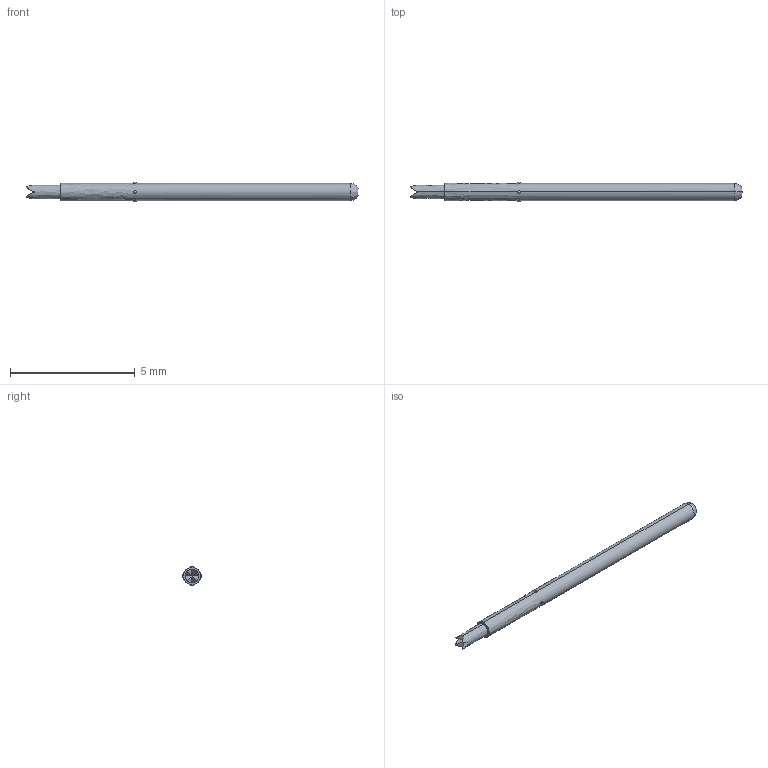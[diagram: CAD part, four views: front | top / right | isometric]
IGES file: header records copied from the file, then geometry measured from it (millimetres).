
Start section: SolidWorks IGES file using analytic representation for surfaces
Global section: file name: O:\PYLON\IGES FILES\P2662B\P2662B-1Q1S REC'D.IGS; native system: SolidWorks 2015; preprocessor: SolidWorks 2015; author: kgolden; date: 171019.093623; units: inch
Bounding box: 13.3 x 0.79 x 0.79 mm (x, y, z)
Surface area: 31 mm2 (no closed solid volume)
Topology: 0 solids, 0 shells, 26 faces, 222 edges, 206 vertices
Faces by surface type: revolution 14, bspline 12
